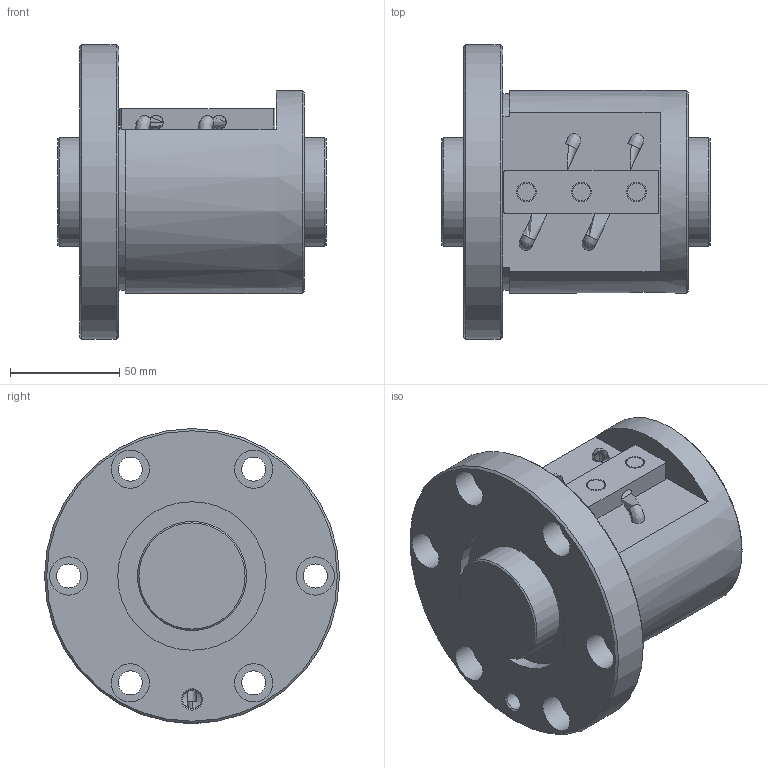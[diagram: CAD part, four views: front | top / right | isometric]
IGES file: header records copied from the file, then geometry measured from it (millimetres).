
Start section: Data from Parasolid IGES Translator 26.0.171, Copyright(c) 2006 Siemens PLM Software. All Rights Reserved.
Global section: file name: BNF5010V-5RRG1+123LC0_000_rev.igs; native system: By Siemens PLM Incorporated; preprocessor: XPlus GENERIC/IGES 26.0.171; author: Noname; organization: Noname; date: 20240806.090502; units: millimetre
Bounding box: 123 x 135 x 135 mm (x, y, z)
Surface area: 106193.7 mm2 (no closed solid volume)
Topology: 0 solids, 0 shells, 80 faces, 352 edges, 302 vertices
Faces by surface type: revolution 51, extrusion 29
